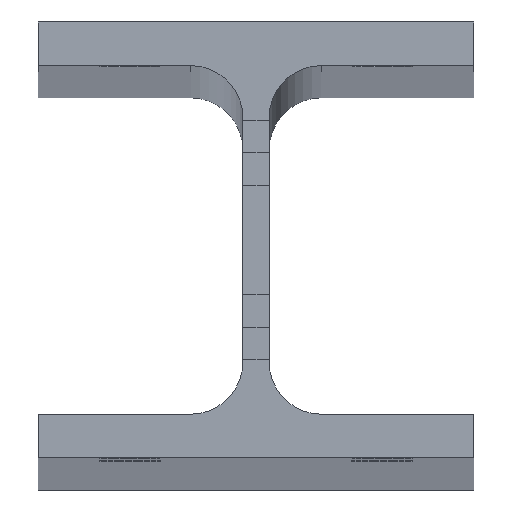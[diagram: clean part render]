
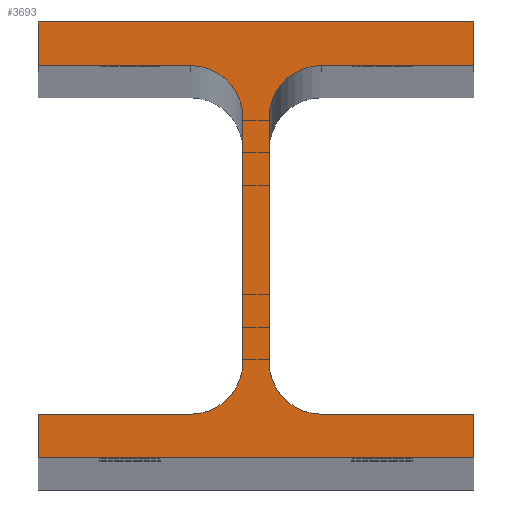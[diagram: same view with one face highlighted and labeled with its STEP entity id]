
A CAD part, top view. The second image highlights one B-rep face of the part: STEP entity #3693.
In plain terms, the highlighted planar face has unit normal (0, 0, 1).
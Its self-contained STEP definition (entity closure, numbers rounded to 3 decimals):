
#101 = AXIS2_PLACEMENT_3D ( 'NONE', #481, #459, #1212 ) ;
#165 = CARTESIAN_POINT ( 'NONE',  ( -15., 40., 4250. ) ) ;
#212 = DIRECTION ( 'NONE',  ( 1., 0., 0. ) ) ;
#222 = DIRECTION ( 'NONE',  ( -1., 0., 0. ) ) ;
#284 = DIRECTION ( 'NONE',  ( 0., 0., -1. ) ) ;
#286 = DIRECTION ( 'NONE',  ( 0., 1., 0. ) ) ;
#341 = EDGE_CURVE ( 'NONE', #3346, #1330, #2429, .T. ) ;
#356 = ORIENTED_EDGE ( 'NONE', *, *, #3615, .T. ) ;
#389 = CARTESIAN_POINT ( 'NONE',  ( -50., -50., 4250. ) ) ;
#459 = DIRECTION ( 'NONE',  ( 0., 0., -1. ) ) ;
#465 = EDGE_CURVE ( 'NONE', #3145, #3706, #2406, .T. ) ;
#481 = CARTESIAN_POINT ( 'NONE',  ( 15., -28., 4250. ) ) ;
#599 = CARTESIAN_POINT ( 'NONE',  ( -50., 40., 4250. ) ) ;
#618 = CARTESIAN_POINT ( 'NONE',  ( -50., 40., 4250. ) ) ;
#622 = CARTESIAN_POINT ( 'NONE',  ( -50., 50., 4250. ) ) ;
#657 = DIRECTION ( 'NONE',  ( -1., 0., 0. ) ) ;
#672 = ORIENTED_EDGE ( 'NONE', *, *, #2306, .T. ) ;
#681 = CARTESIAN_POINT ( 'NONE',  ( 50., -40., 4250. ) ) ;
#686 = ORIENTED_EDGE ( 'NONE', *, *, #1755, .T. ) ;
#689 = VERTEX_POINT ( 'NONE', #3383 ) ;
#711 = EDGE_LOOP ( 'NONE', ( #1887, #4290, #686, #3051, #1291, #1600, #2711, #1021, #1829, #3200, #3995, #2440, #3507, #356, #1158, #672 ) ) ;
#718 = AXIS2_PLACEMENT_3D ( 'NONE', #993, #284, #657 ) ;
#828 = EDGE_CURVE ( 'NONE', #1118, #1015, #4498, .T. ) ;
#872 = LINE ( 'NONE', #3000, #2491 ) ;
#929 = VERTEX_POINT ( 'NONE', #1348 ) ;
#944 = DIRECTION ( 'NONE',  ( 1., 0., 0. ) ) ;
#946 = VERTEX_POINT ( 'NONE', #4214 ) ;
#969 = CARTESIAN_POINT ( 'NONE',  ( -15., 28., 4250. ) ) ;
#978 = DIRECTION ( 'NONE',  ( -1., 0., 0. ) ) ;
#993 = CARTESIAN_POINT ( 'NONE',  ( 15., 28., 4250. ) ) ;
#1015 = VERTEX_POINT ( 'NONE', #681 ) ;
#1021 = ORIENTED_EDGE ( 'NONE', *, *, #4343, .T. ) ;
#1035 = LINE ( 'NONE', #2472, #4250 ) ;
#1113 = VERTEX_POINT ( 'NONE', #4008 ) ;
#1118 = VERTEX_POINT ( 'NONE', #4395 ) ;
#1158 = ORIENTED_EDGE ( 'NONE', *, *, #4035, .T. ) ;
#1173 = CARTESIAN_POINT ( 'NONE',  ( 50., 50., 4250. ) ) ;
#1212 = DIRECTION ( 'NONE',  ( -1., 0., 0. ) ) ;
#1273 = CARTESIAN_POINT ( 'NONE',  ( 50., 50., 4250. ) ) ;
#1291 = ORIENTED_EDGE ( 'NONE', *, *, #1787, .T. ) ;
#1295 = LINE ( 'NONE', #4119, #1363 ) ;
#1298 = DIRECTION ( 'NONE',  ( 1., 0., 0. ) ) ;
#1330 = VERTEX_POINT ( 'NONE', #3961 ) ;
#1345 = AXIS2_PLACEMENT_3D ( 'NONE', #1713, #3154, #222 ) ;
#1348 = CARTESIAN_POINT ( 'NONE',  ( -50., 50., 4250. ) ) ;
#1363 = VECTOR ( 'NONE', #212, 1000. ) ;
#1400 = VECTOR ( 'NONE', #3848, 1000. ) ;
#1600 = ORIENTED_EDGE ( 'NONE', *, *, #1650, .T. ) ;
#1608 = DIRECTION ( 'NONE',  ( 0., 0., -1. ) ) ;
#1609 = LINE ( 'NONE', #3381, #4547 ) ;
#1642 = VERTEX_POINT ( 'NONE', #2665 ) ;
#1650 = EDGE_CURVE ( 'NONE', #946, #3346, #872, .T. ) ;
#1670 = CIRCLE ( 'NONE', #3174, 12. ) ;
#1713 = CARTESIAN_POINT ( 'NONE',  ( 15., 28., 4250. ) ) ;
#1724 = DIRECTION ( 'NONE',  ( 0., -1., 0. ) ) ;
#1755 = EDGE_CURVE ( 'NONE', #3594, #1642, #1670, .T. ) ;
#1758 = VERTEX_POINT ( 'NONE', #1273 ) ;
#1760 = EDGE_CURVE ( 'NONE', #1015, #1113, #4141, .T. ) ;
#1761 = EDGE_CURVE ( 'NONE', #4528, #3594, #1295, .T. ) ;
#1787 = EDGE_CURVE ( 'NONE', #2878, #946, #3400, .T. ) ;
#1829 = ORIENTED_EDGE ( 'NONE', *, *, #828, .T. ) ;
#1887 = ORIENTED_EDGE ( 'NONE', *, *, #3499, .T. ) ;
#2079 = CARTESIAN_POINT ( 'NONE',  ( 3., 28., 4250. ) ) ;
#2302 = LINE ( 'NONE', #3322, #2383 ) ;
#2306 = EDGE_CURVE ( 'NONE', #1758, #929, #4199, .T. ) ;
#2307 = VECTOR ( 'NONE', #2611, 1000. ) ;
#2383 = VECTOR ( 'NONE', #3694, 1000. ) ;
#2406 = CIRCLE ( 'NONE', #1345, 12. ) ;
#2429 = LINE ( 'NONE', #389, #2620 ) ;
#2440 = ORIENTED_EDGE ( 'NONE', *, *, #3816, .T. ) ;
#2454 = CARTESIAN_POINT ( 'NONE',  ( 15., 40., 4250. ) ) ;
#2472 = CARTESIAN_POINT ( 'NONE',  ( -3., -28., 4250. ) ) ;
#2491 = VECTOR ( 'NONE', #3023, 1000. ) ;
#2516 = DIRECTION ( 'NONE',  ( 0., -1., 0. ) ) ;
#2611 = DIRECTION ( 'NONE',  ( 0., 1., 0. ) ) ;
#2620 = VECTOR ( 'NONE', #2516, 1000. ) ;
#2665 = CARTESIAN_POINT ( 'NONE',  ( -3., 28., 4250. ) ) ;
#2691 = DIRECTION ( 'NONE',  ( -1., 0., 0. ) ) ;
#2692 = CARTESIAN_POINT ( 'NONE',  ( 3., -28., 4250. ) ) ;
#2711 = ORIENTED_EDGE ( 'NONE', *, *, #341, .T. ) ;
#2720 = VECTOR ( 'NONE', #2691, 1000. ) ;
#2763 = CARTESIAN_POINT ( 'NONE',  ( 15., -40., 4250. ) ) ;
#2766 = CARTESIAN_POINT ( 'NONE',  ( 50., -40., 4250. ) ) ;
#2785 = PLANE ( 'NONE',  #718 ) ;
#2878 = VERTEX_POINT ( 'NONE', #4207 ) ;
#2897 = CIRCLE ( 'NONE', #101, 12. ) ;
#3000 = CARTESIAN_POINT ( 'NONE',  ( -50., -40., 4250. ) ) ;
#3023 = DIRECTION ( 'NONE',  ( -1., 0., 0. ) ) ;
#3029 = EDGE_CURVE ( 'NONE', #1113, #3683, #2897, .T. ) ;
#3036 = VECTOR ( 'NONE', #978, 1000. ) ;
#3051 = ORIENTED_EDGE ( 'NONE', *, *, #3809, .T. ) ;
#3075 = DIRECTION ( 'NONE',  ( 0., 0., -1. ) ) ;
#3145 = VERTEX_POINT ( 'NONE', #4484 ) ;
#3151 = DIRECTION ( 'NONE',  ( 0., -1., 0. ) ) ;
#3154 = DIRECTION ( 'NONE',  ( 0., 0., -1. ) ) ;
#3174 = AXIS2_PLACEMENT_3D ( 'NONE', #969, #1608, #944 ) ;
#3200 = ORIENTED_EDGE ( 'NONE', *, *, #1760, .T. ) ;
#3209 = VECTOR ( 'NONE', #3151, 1000. ) ;
#3214 = LINE ( 'NONE', #2079, #1400 ) ;
#3322 = CARTESIAN_POINT ( 'NONE',  ( 50., -50., 4250. ) ) ;
#3333 = VECTOR ( 'NONE', #286, 1000. ) ;
#3346 = VERTEX_POINT ( 'NONE', #4173 ) ;
#3381 = CARTESIAN_POINT ( 'NONE',  ( 50., 40., 4250. ) ) ;
#3383 = CARTESIAN_POINT ( 'NONE',  ( 50., 40., 4250. ) ) ;
#3400 = CIRCLE ( 'NONE', #4217, 12. ) ;
#3476 = FACE_OUTER_BOUND ( 'NONE', #711, .T. ) ;
#3499 = EDGE_CURVE ( 'NONE', #929, #4528, #4218, .T. ) ;
#3507 = ORIENTED_EDGE ( 'NONE', *, *, #465, .T. ) ;
#3594 = VERTEX_POINT ( 'NONE', #165 ) ;
#3615 = EDGE_CURVE ( 'NONE', #3706, #689, #1609, .T. ) ;
#3683 = VERTEX_POINT ( 'NONE', #2692 ) ;
#3693 = ADVANCED_FACE ( 'NONE', ( #3476 ), #2785, .F. ) ;
#3694 = DIRECTION ( 'NONE',  ( 1., 0., 0. ) ) ;
#3706 = VERTEX_POINT ( 'NONE', #2454 ) ;
#3809 = EDGE_CURVE ( 'NONE', #1642, #2878, #1035, .T. ) ;
#3816 = EDGE_CURVE ( 'NONE', #3683, #3145, #3214, .T. ) ;
#3848 = DIRECTION ( 'NONE',  ( 0., 1., 0. ) ) ;
#3961 = CARTESIAN_POINT ( 'NONE',  ( -50., -50., 4250. ) ) ;
#3995 = ORIENTED_EDGE ( 'NONE', *, *, #3029, .T. ) ;
#4008 = CARTESIAN_POINT ( 'NONE',  ( 15., -40., 4250. ) ) ;
#4035 = EDGE_CURVE ( 'NONE', #689, #1758, #4392, .T. ) ;
#4119 = CARTESIAN_POINT ( 'NONE',  ( -15., 40., 4250. ) ) ;
#4141 = LINE ( 'NONE', #2763, #2720 ) ;
#4173 = CARTESIAN_POINT ( 'NONE',  ( -50., -40., 4250. ) ) ;
#4199 = LINE ( 'NONE', #622, #3036 ) ;
#4207 = CARTESIAN_POINT ( 'NONE',  ( -3., -28., 4250. ) ) ;
#4214 = CARTESIAN_POINT ( 'NONE',  ( -15., -40., 4250. ) ) ;
#4217 = AXIS2_PLACEMENT_3D ( 'NONE', #4471, #3075, #4495 ) ;
#4218 = LINE ( 'NONE', #618, #3209 ) ;
#4250 = VECTOR ( 'NONE', #1724, 1000. ) ;
#4290 = ORIENTED_EDGE ( 'NONE', *, *, #1761, .T. ) ;
#4343 = EDGE_CURVE ( 'NONE', #1330, #1118, #2302, .T. ) ;
#4392 = LINE ( 'NONE', #1173, #2307 ) ;
#4395 = CARTESIAN_POINT ( 'NONE',  ( 50., -50., 4250. ) ) ;
#4471 = CARTESIAN_POINT ( 'NONE',  ( -15., -28., 4250. ) ) ;
#4484 = CARTESIAN_POINT ( 'NONE',  ( 3., 28., 4250. ) ) ;
#4495 = DIRECTION ( 'NONE',  ( -1., 0., 0. ) ) ;
#4498 = LINE ( 'NONE', #2766, #3333 ) ;
#4528 = VERTEX_POINT ( 'NONE', #599 ) ;
#4547 = VECTOR ( 'NONE', #1298, 1000. ) ;
